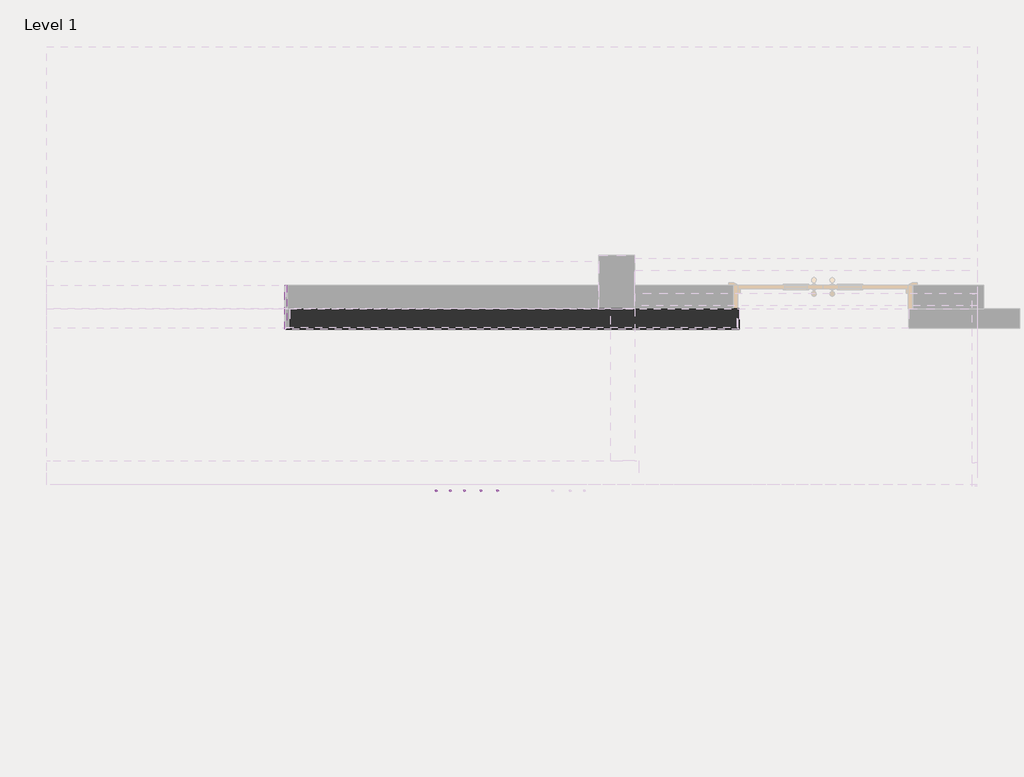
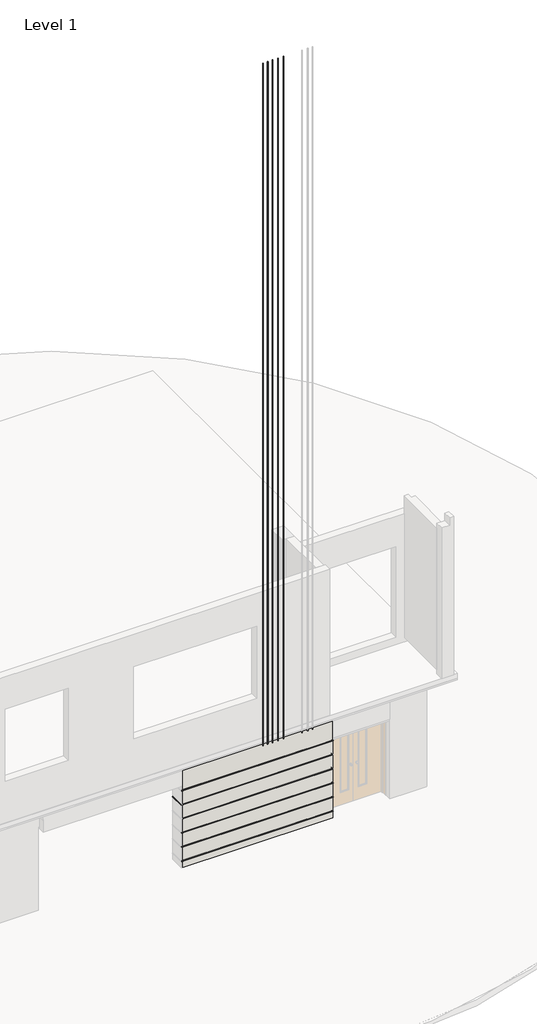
# One storey, part 2 of 3: 10 proxies, 1 wall.
"""IFC4 building model written with IfcOpenShell, lengths in millimetres."""

import ifcopenshell
import ifcopenshell.guid

model = None  # the IFC model being written
_history = None  # IfcOwnerHistory: only IFC2X3 demands one
_inside = {}  # id of a spatial element -> (the spatial element, [elements in it])
_under = {}  # id of a project, library or spatial element -> (it, [spatial elements below it])
_declared = {}  # id of a project -> (the project, [libraries it declares])
_typed = {}  # id of a type object -> (the type object, [elements of that type])
_made_of = {}  # id of a material, layer set ... -> (it, [elements and type objects made of it])


def new_model(schema):
    """Start an empty IFC model of exactly this schema.

    Asked for "IFC4X3", IfcOpenShell would pick the latest addendum, in which some entities
    have other attributes; the version numbers below select the first issue.
    IFC2X3 requires an IfcOwnerHistory on every rooted entity: one is made here for all.
    """
    global model, _history
    if schema == "IFC4X3":
        model = ifcopenshell.file(schema_version=(4, 3, 0, 0))
    else:
        model = ifcopenshell.file(schema=schema)
    _inside.clear()
    _under.clear()
    _declared.clear()
    _typed.clear()
    _made_of.clear()
    _history = None
    if model.schema == "IFC2X3":
        org = make("IfcOrganization", Name="unknown")
        user = make(
            "IfcPersonAndOrganization",
            ThePerson=make("IfcPerson", FamilyName="unknown"),
            TheOrganization=org,
        )
        app = make(
            "IfcApplication",
            ApplicationDeveloper=org,
            Version="unknown",
            ApplicationFullName="unknown",
            ApplicationIdentifier="unknown",
        )
        _history = make(
            "IfcOwnerHistory",
            OwningUser=user,
            OwningApplication=app,
            ChangeAction="ADDED",
            CreationDate=0,
        )
    return model


def make(cls, **values):
    """One entity of the class cls with the attributes given. An attribute that is None is left unset."""
    return model.create_entity(
        cls, **{name: value for name, value in values.items() if value is not None}
    )


def rooted(cls, **values):
    """An entity with a GlobalId (a new one), such as an element, a storey or a relation."""
    return make(cls, GlobalId=ifcopenshell.guid.new(), OwnerHistory=_history, **values)


def si_unit(unit_type, name, prefix=None):
    """IfcSIUnit, for example si_unit("LENGTHUNIT", "METRE", prefix="MILLI")."""
    return make("IfcSIUnit", UnitType=unit_type, Prefix=prefix, Name=name)


def assignment(units):
    """IfcUnitAssignment: the units of a project."""
    return None if units is None else make("IfcUnitAssignment", Units=units)


def point(xyz):
    """IfcCartesianPoint."""
    return None if xyz is None else make("IfcCartesianPoint", Coordinates=xyz)


def direction(xyz):
    """IfcDirection."""
    return None if xyz is None else make("IfcDirection", DirectionRatios=xyz)


def frame(location, z_axis=None, x_axis=None):
    """IfcAxis2Placement3D, a coordinate frame: its origin and axes. An axis left out is left unset."""
    return make(
        "IfcAxis2Placement3D",
        Location=point(location),
        Axis=direction(z_axis),
        RefDirection=direction(x_axis),
    )


def frame_2d(location, x_axis=None):
    """IfcAxis2Placement2D, a coordinate frame in the plane: its origin and x axis."""
    return make(
        "IfcAxis2Placement2D", Location=point(location), RefDirection=direction(x_axis)
    )


def origin():
    """The frame at (0, 0, 0) with its axes left unset."""
    return frame((0.0, 0.0, 0.0))


def place(relative_to, where):
    """IfcLocalPlacement: puts the frame where relative to a parent placement (None: the world)."""
    return make(
        "IfcLocalPlacement", PlacementRelTo=relative_to, RelativePlacement=where
    )


def context(
    kind, dimensions, precision=None, world=None, true_north=None, identifier=None
):
    """IfcGeometricRepresentationContext, for example the 3D "Model" context."""
    return make(
        "IfcGeometricRepresentationContext",
        ContextIdentifier=identifier,
        ContextType=kind,
        CoordinateSpaceDimension=dimensions,
        Precision=precision,
        WorldCoordinateSystem=world,
        TrueNorth=true_north,
    )


def project(units=None, contexts=None):
    """IfcProject with its units and contexts."""
    return rooted(
        "IfcProject",
        Name="project",
        RepresentationContexts=contexts,
        UnitsInContext=assignment(units),
    )


def spatial(cls, under=None, at=None, **own):
    """A site, building, storey or space (cls), placed at a placement, below another one or the project."""
    s = rooted(cls, ObjectPlacement=at, **own)
    if under is not None:
        _under.setdefault(under.id(), (under, []))[1].append(s)
    return s


def polyline(points):
    """IfcPolyline through the points."""
    return make("IfcPolyline", Points=[point(p) for p in points])


def circle_curve(where, radius):
    """IfcCircle in the frame where."""
    return make("IfcCircle", Position=where, Radius=radius)


def ellipse_curve(where, semi_axis1, semi_axis2):
    """IfcEllipse in the frame where."""
    return make(
        "IfcEllipse", Position=where, SemiAxis1=semi_axis1, SemiAxis2=semi_axis2
    )


def trimmed(basis, trim1, trim2, sense, master):
    """IfcTrimmedCurve: the piece of a basis curve between two trims."""
    return make(
        "IfcTrimmedCurve",
        BasisCurve=basis,
        Trim1=trim1,
        Trim2=trim2,
        SenseAgreement=sense,
        MasterRepresentation=master,
    )


def segment(curve, same_sense, transition):
    """IfcCompositeCurveSegment."""
    return make(
        "IfcCompositeCurveSegment",
        Transition=transition,
        SameSense=same_sense,
        ParentCurve=curve,
    )


def composite_curve(segments, self_intersect=None):
    """IfcCompositeCurve: segments joined end to end."""
    return make("IfcCompositeCurve", Segments=segments, SelfIntersect=self_intersect)


def outline(outer, holes=None, kind="AREA"):
    """IfcArbitraryClosedProfileDef: a profile drawn as a closed curve; with holes, ...WithVoids."""
    if holes is None:
        return make("IfcArbitraryClosedProfileDef", ProfileType=kind, OuterCurve=outer)
    return make(
        "IfcArbitraryProfileDefWithVoids",
        ProfileType=kind,
        OuterCurve=outer,
        InnerCurves=holes,
    )


def extrude(swept, where, along, depth):
    """IfcExtrudedAreaSolid: the profile swept, set in the frame where, extruded along a direction by depth."""
    return make(
        "IfcExtrudedAreaSolid",
        SweptArea=swept,
        Position=where,
        ExtrudedDirection=direction(along),
        Depth=depth,
    )


def shape(context_of_items, identifier, shape_type, items):
    """IfcShapeRepresentation: the items that make up one representation, for example the "Body"."""
    return make(
        "IfcShapeRepresentation",
        ContextOfItems=context_of_items,
        RepresentationIdentifier=identifier,
        RepresentationType=shape_type,
        Items=items,
    )


def made_of(thing, what):
    """Note that an element or type object is made of a material, layer set ...; save() writes the relation."""
    if what is not None:
        _made_of.setdefault(what.id(), (what, []))[1].append(thing)
    return thing


def element(
    cls,
    number,
    at=None,
    inside=None,
    cuts=None,
    type_object=None,
    material=None,
    context=None,
    identifier="Body",
    shape_type=None,
    held_by="IfcProductDefinitionShape",
    body=None,
    shapes=None,
    **own,
):
    """One element of the class cls, such as IfcWall. Its Tag is "e" and its number.

    at: its placement. inside: the storey or other place that contains it. cuts: it is an
    opening in that element (IfcRelVoidsElement). A single representation is given by context,
    identifier, shape_type and body (its items); several are given by shapes. held_by: the class
    of the entity that holds the representations. save() writes the other relations.
    """
    e = rooted(cls, Tag="e%d" % number, ObjectPlacement=at, **own)
    if body is not None:
        shapes = [shape(context, identifier, shape_type, body)]
    if shapes is not None:
        e.Representation = make(held_by, Representations=shapes)
    if inside is not None:
        _inside.setdefault(inside.id(), (inside, []))[1].append(e)
    if cuts is not None:
        rooted(
            "IfcRelVoidsElement", RelatingBuildingElement=cuts, RelatedOpeningElement=e
        )
    if type_object is not None:
        _typed.setdefault(type_object.id(), (type_object, []))[1].append(e)
    return made_of(e, material)


def aggregate(whole, parts):
    """IfcRelAggregates: a whole, such as a stair, and the parts it consists of."""
    return rooted("IfcRelAggregates", RelatingObject=whole, RelatedObjects=parts)


def save(model, path):
    """Write the relations noted so far, then the file.

    IfcRelAggregates (storeys below a building ...), IfcRelContainedInSpatialStructure (elements
    in a storey), IfcRelDefinesByType, IfcRelAssociatesMaterial and IfcRelDeclares: one each for
    every whole, place, type object, material and project.
    """
    for whole, parts in _under.values():
        aggregate(whole, parts)
    for where, things in _inside.values():
        rooted(
            "IfcRelContainedInSpatialStructure",
            RelatedElements=things,
            RelatingStructure=where,
        )
    for kind, things in _typed.values():
        rooted("IfcRelDefinesByType", RelatedObjects=things, RelatingType=kind)
    for what, things in _made_of.values():
        rooted("IfcRelAssociatesMaterial", RelatedObjects=things, RelatingMaterial=what)
    for by, libraries in _declared.values():
        rooted("IfcRelDeclares", RelatingContext=by, RelatedDefinitions=libraries)
    model.write(path)


def plane_surface(at):
    """IfcPlane: the flat surface through the origin of the frame at, square to its z axis."""
    return make("IfcPlane", Position=at)


def cylinder_surface(at, radius):
    """IfcCylindricalSurface: all points at the distance radius from the z axis of the frame at."""
    return make("IfcCylindricalSurface", Position=at, Radius=radius)


def revolved_surface(curve, axis_point, axis_direction):
    """IfcSurfaceOfRevolution: the curve turned about the line through axis_point along axis_direction."""
    return make(
        "IfcSurfaceOfRevolution",
        SweptCurve=make("IfcArbitraryOpenProfileDef", ProfileType="CURVE", Curve=curve),
        AxisPosition=make("IfcAxis1Placement", Location=point(axis_point), Axis=direction(axis_direction)),
    )


def advanced_brep(points, edges, surfaces, faces):
    """IfcAdvancedBrep: a solid bounded by faces that lie on surfaces and meet in shared edges.

    An edge is (start, end): straight between two places in points (the first is 0);
    or (start, end, curve); or (start, end, curve, False) where it runs against its curve.
    A face is (place in surfaces, loops), or (place, loops, False) where it looks against
    its surface's normal. A loop lists edges by number (the first is 1), with a minus sign
    where the edge is run from its end to its start. The first loop is the outer one.
    """
    corners = [point(p) for p in points]
    vertices = [make("IfcVertexPoint", VertexGeometry=c) for c in corners]
    made = []
    for start, end, *more in edges:
        made.append(
            make(
                "IfcEdgeCurve",
                EdgeStart=vertices[start],
                EdgeEnd=vertices[end],
                EdgeGeometry=more[0] if more else make("IfcPolyline", Points=[corners[start], corners[end]]),
                SameSense=more[1] if len(more) > 1 else True,
            )
        )
    hull = []
    for where, loops, *sense in faces:
        bounds = []
        for j, loop in enumerate(loops):
            ring = [make("IfcOrientedEdge", EdgeElement=made[abs(k) - 1], Orientation=k > 0) for k in loop]
            bounds.append(
                make(
                    "IfcFaceOuterBound" if j == 0 else "IfcFaceBound",
                    Bound=make("IfcEdgeLoop", EdgeList=ring),
                    Orientation=True,
                )
            )
        hull.append(make("IfcAdvancedFace", Bounds=bounds, FaceSurface=surfaces[where], SameSense=sense[0] if sense else True))
    return make("IfcAdvancedBrep", Outer=make("IfcClosedShell", CfsFaces=hull))


model = new_model("IFC4")

# Units and contexts
model_context = context("Model", 3, world=origin())
ifc_project = project(units=[si_unit("LENGTHUNIT", "METRE", prefix="MILLI")], contexts=[model_context])

# Site, building, storey
site = spatial("IfcSite", under=ifc_project)
building = spatial("IfcBuilding", under=site)
storey = spatial("IfcBuildingStorey", under=building, Name="Level 1", Elevation=0.0)

# Proxies
placement = place(None, origin())
element("IfcBuildingElementProxy", 1, Name="Reveal", ObjectType="Reveal", at=placement, inside=storey, context=model_context, shape_type="SweptSolid", body=[
    extrude(outline(composite_curve([segment(trimmed(circle_curve(frame_2d((3095.4960254, -5750.9799478)), 8.0), [point((3095.4960254, -5758.9799478))], [point((3095.4960254, -5742.9799478))], False, "CARTESIAN"), True, "CONTINUOUS"), segment(trimmed(circle_curve(frame_2d((3095.4960254, -5750.9799478)), 8.0), [point((3095.4960254, -5742.9799478))], [point((3095.4960254, -5758.9799478))], False, "CARTESIAN"), True, "CONTINUOUS")], self_intersect=False)), frame((0.0, 0.0, 3630.0), z_axis=(0.0, 0.0, 1.0), x_axis=(1.0, 0.0, 0.0)), (0.0, 0.0, 1.0), 18066.328216),
])
element("IfcBuildingElementProxy", 2, Name="Reveal", ObjectType="Reveal", at=placement, inside=storey, context=model_context, shape_type="SweptSolid", body=[
    extrude(outline(composite_curve([segment(trimmed(circle_curve(frame_2d((3214.067454, -5750.9799478)), 8.0), [point((3214.067454, -5758.9799478))], [point((3214.067454, -5742.9799478))], False, "CARTESIAN"), True, "CONTINUOUS"), segment(trimmed(circle_curve(frame_2d((3214.067454, -5750.9799478)), 8.0), [point((3214.067454, -5742.9799478))], [point((3214.067454, -5758.9799478))], False, "CARTESIAN"), True, "CONTINUOUS")], self_intersect=False)), frame((0.0, 0.0, 3630.0), z_axis=(0.0, 0.0, 1.0), x_axis=(1.0, 0.0, 0.0)), (0.0, 0.0, 1.0), 18066.328216),
])
element("IfcBuildingElementProxy", 3, Name="Reveal", ObjectType="Reveal", at=placement, inside=storey, context=model_context, shape_type="SweptSolid", body=[
    extrude(outline(composite_curve([segment(trimmed(circle_curve(frame_2d((3332.6388826, -5750.9799478)), 8.0), [point((3332.6388826, -5758.9799478))], [point((3332.6388826, -5742.9799478))], False, "CARTESIAN"), True, "CONTINUOUS"), segment(trimmed(circle_curve(frame_2d((3332.6388826, -5750.9799478)), 8.0), [point((3332.6388826, -5742.9799478))], [point((3332.6388826, -5758.9799478))], False, "CARTESIAN"), True, "CONTINUOUS")], self_intersect=False)), frame((0.0, 0.0, 3630.0), z_axis=(0.0, 0.0, 1.0), x_axis=(1.0, 0.0, 0.0)), (0.0, 0.0, 1.0), 18066.328216),
])
element("IfcBuildingElementProxy", 4, Name="Reveal", ObjectType="Reveal", at=placement, inside=storey, context=model_context, shape_type="SweptSolid", body=[
    extrude(outline(composite_curve([segment(trimmed(circle_curve(frame_2d((3471.2103111, -5750.9799478)), 8.0), [point((3471.2103111, -5758.9799478))], [point((3471.2103111, -5742.9799478))], False, "CARTESIAN"), True, "CONTINUOUS"), segment(trimmed(circle_curve(frame_2d((3471.2103111, -5750.9799478)), 8.0), [point((3471.2103111, -5742.9799478))], [point((3471.2103111, -5758.9799478))], False, "CARTESIAN"), True, "CONTINUOUS")], self_intersect=False)), frame((0.0, 0.0, 3630.0), z_axis=(0.0, 0.0, 1.0), x_axis=(1.0, 0.0, 0.0)), (0.0, 0.0, 1.0), 18066.328216),
])
element("IfcBuildingElementProxy", 5, Name="Reveal", ObjectType="Reveal", at=placement, inside=storey, context=model_context, shape_type="SweptSolid", body=[
    extrude(outline(composite_curve([segment(trimmed(circle_curve(frame_2d((3609.7817397, -5750.9799478)), 8.0), [point((3609.7817397, -5758.9799478))], [point((3609.7817397, -5742.9799478))], False, "CARTESIAN"), True, "CONTINUOUS"), segment(trimmed(circle_curve(frame_2d((3609.7817397, -5750.9799478)), 8.0), [point((3609.7817397, -5742.9799478))], [point((3609.7817397, -5758.9799478))], False, "CARTESIAN"), True, "CONTINUOUS")], self_intersect=False)), frame((0.0, 0.0, 3630.0), z_axis=(0.0, 0.0, 1.0), x_axis=(1.0, 0.0, 0.0)), (0.0, 0.0, 1.0), 18066.328216),
])
element("IfcBuildingElementProxy", 6, Name="Reveal", ObjectType="Reveal", at=placement, inside=storey, context=model_context, shape_type="AdvancedBrep", body=[
    advanced_brep(
    [(1826.4333411, -4395.9647185, 181.0626843), (1842.4333411, -4379.9647185, 181.0626843), (5618.5761983, -4379.9647185, 181.0626843), (5634.5761983, -4395.9647185, 181.0626843), (5634.5761983, -4225.9647185, 181.0626843), (5618.5761983, -4225.9647185, 181.0626843)],
    [
        (0, 1, ellipse_curve(frame((1834.4333411, -4387.9647185, 181.0626843), z_axis=(-0.7071067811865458, 0.7071067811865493, 0.0), x_axis=(0.7071067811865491, 0.7071067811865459, 0.0)), 11.3137085, 8.0)),
        (1, 0, ellipse_curve(frame((1834.4333411, -4387.9647185, 181.0626843), z_axis=(-0.7071067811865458, 0.7071067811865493, 0.0), x_axis=(0.7071067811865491, 0.7071067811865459, 0.0)), 11.3137085, 8.0)),
        (2, 3, ellipse_curve(frame((5626.5761983, -4387.9647185, 181.0626843), z_axis=(-0.7071067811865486, -0.7071067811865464, 0.0), x_axis=(0.7071067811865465, -0.7071067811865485, 0.0)), 11.3137085, 8.0)),
        (3, 0),
        (1, 2),
        (3, 2, ellipse_curve(frame((5626.5761983, -4387.9647185, 181.0626843), z_axis=(-0.7071067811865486, -0.7071067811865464, 0.0), x_axis=(0.7071067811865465, -0.7071067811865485, 0.0)), 11.3137085, 8.0)),
        (4, 5, circle_curve(frame((5626.5761983, -4225.9647185, 181.0626843), z_axis=(0.0, 1.0, 0.0), x_axis=(-1.0, 0.0, 0.0)), 8.0)),
        (5, 4, circle_curve(frame((5626.5761983, -4225.9647185, 181.0626843), z_axis=(0.0, 1.0, 0.0), x_axis=(-1.0, 0.0, 0.0)), 8.0)),
        (4, 3),
        (2, 5),
    ],
    [
        plane_surface(frame((1834.4333411, -4387.9647185, 484.8), z_axis=(-0.7071067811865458, 0.7071067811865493, 0.0), x_axis=(0.7071067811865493, 0.7071067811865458, 0.0))),
        cylinder_surface(frame((5626.5761983, -4387.9647185, 181.0626843), z_axis=(1.0, 0.0, 0.0), x_axis=(0.0, 1.0, 0.0)), 8.0),
        plane_surface(frame((5549.4333411, -4225.9647185, 0.0), z_axis=(0.0, 1.0, 0.0), x_axis=(1.0, 0.0, 0.0))),
        cylinder_surface(frame((5626.5761983, -4225.9647185, 181.0626843), z_axis=(0.0, 1.0, 0.0), x_axis=(-1.0, 0.0, 0.0)), 8.0),
    ],
    [
        (0, [[1, 2]]),
        (1, [[3, 4, -2, 5]]),
        (1, [[6, -5, -1, -4]]),
        (2, [[7, 8]]),
        (3, [[-7, 9, -3, 10]]),
        (3, [[-8, -10, -6, -9]]),
    ],
),
])
element("IfcBuildingElementProxy", 7, Name="Reveal", ObjectType="Reveal", at=placement, inside=storey, context=model_context, shape_type="AdvancedBrep", body=[
    advanced_brep(
    [(5634.5761983, -4225.9647185, 2048.5626843), (5618.5761983, -4225.9647185, 2048.5626843), (5634.5761983, -4395.9647185, 2048.5626843), (5618.5761983, -4379.9647185, 2048.5626843), (1826.4333411, -4395.9647185, 2048.5626843), (1842.4333411, -4379.9647185, 2048.5626843)],
    [
        (0, 1, circle_curve(frame((5626.5761983, -4225.9647185, 2048.5626843), z_axis=(0.0, 1.0, 0.0), x_axis=(-1.0, 0.0, 0.0)), 8.0)),
        (1, 0, circle_curve(frame((5626.5761983, -4225.9647185, 2048.5626843), z_axis=(0.0, 1.0, 0.0), x_axis=(-1.0, 0.0, 0.0)), 8.0)),
        (0, 2),
        (2, 3, ellipse_curve(frame((5626.5761983, -4387.9647185, 2048.5626843), z_axis=(0.7071067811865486, 0.7071067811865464, 0.0), x_axis=(-0.7071067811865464, 0.7071067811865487, 0.0)), 11.3137085, 8.0)),
        (3, 1),
        (3, 2, ellipse_curve(frame((5626.5761983, -4387.9647185, 2048.5626843), z_axis=(0.7071067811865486, 0.7071067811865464, 0.0), x_axis=(-0.7071067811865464, 0.7071067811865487, 0.0)), 11.3137085, 8.0)),
        (4, 5, ellipse_curve(frame((1834.4333411, -4387.9647185, 2048.5626843), z_axis=(-0.7071067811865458, 0.7071067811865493, 0.0), x_axis=(0.7071067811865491, 0.7071067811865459, 0.0)), 11.3137085, 8.0)),
        (5, 4, ellipse_curve(frame((1834.4333411, -4387.9647185, 2048.5626843), z_axis=(-0.7071067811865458, 0.7071067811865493, 0.0), x_axis=(0.7071067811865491, 0.7071067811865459, 0.0)), 11.3137085, 8.0)),
        (2, 4),
        (5, 3),
    ],
    [
        plane_surface(frame((5549.4333411, -4225.9647185, 0.0), z_axis=(0.0, 1.0, 0.0), x_axis=(1.0, 0.0, 0.0))),
        cylinder_surface(frame((5626.5761983, -4225.9647185, 2048.5626843), z_axis=(0.0, 1.0, 0.0), x_axis=(-1.0, 0.0, 0.0)), 8.0),
        plane_surface(frame((1834.4333411, -4387.9647185, 2352.3), z_axis=(-0.7071067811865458, 0.7071067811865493, 0.0), x_axis=(0.7071067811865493, 0.7071067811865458, 0.0))),
        cylinder_surface(frame((5626.5761983, -4387.9647185, 2048.5626843), z_axis=(1.0, 0.0, 0.0), x_axis=(0.0, 1.0, 0.0)), 8.0),
    ],
    [
        (0, [[1, 2]]),
        (1, [[-1, 3, 4, 5]]),
        (1, [[-2, -5, 6, -3]]),
        (2, [[7, 8]]),
        (3, [[-4, 9, -8, 10]]),
        (3, [[-6, -10, -7, -9]]),
    ],
),
])
element("IfcBuildingElementProxy", 8, Name="Reveal", ObjectType="Reveal", at=placement, inside=storey, context=model_context, shape_type="AdvancedBrep", body=[
    advanced_brep(
    [(5634.5761983, -4225.9647185, 554.5626843), (5618.5761983, -4225.9647185, 554.5626843), (5634.5761983, -4395.9647185, 554.5626843), (5618.5761983, -4379.9647185, 554.5626843), (1826.4333411, -4395.9647185, 554.5626843), (1842.4333411, -4379.9647185, 554.5626843)],
    [
        (0, 1, circle_curve(frame((5626.5761983, -4225.9647185, 554.5626843), z_axis=(0.0, 1.0, 0.0), x_axis=(-1.0, 0.0, 0.0)), 8.0)),
        (1, 0, circle_curve(frame((5626.5761983, -4225.9647185, 554.5626843), z_axis=(0.0, 1.0, 0.0), x_axis=(-1.0, 0.0, 0.0)), 8.0)),
        (0, 2),
        (2, 3, ellipse_curve(frame((5626.5761983, -4387.9647185, 554.5626843), z_axis=(0.7071067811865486, 0.7071067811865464, 0.0), x_axis=(-0.7071067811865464, 0.7071067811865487, 0.0)), 11.3137085, 8.0)),
        (3, 1),
        (3, 2, ellipse_curve(frame((5626.5761983, -4387.9647185, 554.5626843), z_axis=(0.7071067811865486, 0.7071067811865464, 0.0), x_axis=(-0.7071067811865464, 0.7071067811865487, 0.0)), 11.3137085, 8.0)),
        (4, 5, ellipse_curve(frame((1834.4333411, -4387.9647185, 554.5626843), z_axis=(-0.7071067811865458, 0.7071067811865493, 0.0), x_axis=(0.7071067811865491, 0.7071067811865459, 0.0)), 11.3137085, 8.0)),
        (5, 4, ellipse_curve(frame((1834.4333411, -4387.9647185, 554.5626843), z_axis=(-0.7071067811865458, 0.7071067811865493, 0.0), x_axis=(0.7071067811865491, 0.7071067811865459, 0.0)), 11.3137085, 8.0)),
        (2, 4),
        (5, 3),
    ],
    [
        plane_surface(frame((5549.4333411, -4225.9647185, 0.0), z_axis=(0.0, 1.0, 0.0), x_axis=(1.0, 0.0, 0.0))),
        cylinder_surface(frame((5626.5761983, -4225.9647185, 554.5626843), z_axis=(0.0, 1.0, 0.0), x_axis=(-1.0, 0.0, 0.0)), 8.0),
        plane_surface(frame((1834.4333411, -4387.9647185, 858.3), z_axis=(-0.7071067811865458, 0.7071067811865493, 0.0), x_axis=(0.7071067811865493, 0.7071067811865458, 0.0))),
        cylinder_surface(frame((5626.5761983, -4387.9647185, 554.5626843), z_axis=(1.0, 0.0, 0.0), x_axis=(0.0, 1.0, 0.0)), 8.0),
    ],
    [
        (0, [[1, 2]]),
        (1, [[-1, 3, 4, 5]]),
        (1, [[-2, -5, 6, -3]]),
        (2, [[7, 8]]),
        (3, [[-4, 9, -8, 10]]),
        (3, [[-6, -10, -7, -9]]),
    ],
),
])
element("IfcBuildingElementProxy", 9, Name="Reveal", ObjectType="Reveal", at=placement, inside=storey, context=model_context, shape_type="AdvancedBrep", body=[
    advanced_brep(
    [(5634.5761983, -4225.9647185, 928.0626843), (5618.5761983, -4225.9647185, 928.0626843), (5634.5761983, -4395.9647185, 928.0626843), (5618.5761983, -4379.9647185, 928.0626843), (1826.4333411, -4395.9647185, 928.0626843), (1842.4333411, -4379.9647185, 928.0626843)],
    [
        (0, 1, circle_curve(frame((5626.5761983, -4225.9647185, 928.0626843), z_axis=(0.0, 1.0, 0.0), x_axis=(-1.0, 0.0, 0.0)), 8.0)),
        (1, 0, circle_curve(frame((5626.5761983, -4225.9647185, 928.0626843), z_axis=(0.0, 1.0, 0.0), x_axis=(-1.0, 0.0, 0.0)), 8.0)),
        (0, 2),
        (2, 3, ellipse_curve(frame((5626.5761983, -4387.9647185, 928.0626843), z_axis=(0.7071067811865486, 0.7071067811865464, 0.0), x_axis=(-0.7071067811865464, 0.7071067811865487, 0.0)), 11.3137085, 8.0)),
        (3, 1),
        (3, 2, ellipse_curve(frame((5626.5761983, -4387.9647185, 928.0626843), z_axis=(0.7071067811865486, 0.7071067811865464, 0.0), x_axis=(-0.7071067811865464, 0.7071067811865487, 0.0)), 11.3137085, 8.0)),
        (4, 5, ellipse_curve(frame((1834.4333411, -4387.9647185, 928.0626843), z_axis=(-0.7071067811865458, 0.7071067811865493, 0.0), x_axis=(0.7071067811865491, 0.7071067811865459, 0.0)), 11.3137085, 8.0)),
        (5, 4, ellipse_curve(frame((1834.4333411, -4387.9647185, 928.0626843), z_axis=(-0.7071067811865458, 0.7071067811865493, 0.0), x_axis=(0.7071067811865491, 0.7071067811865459, 0.0)), 11.3137085, 8.0)),
        (2, 4),
        (5, 3),
    ],
    [
        plane_surface(frame((5549.4333411, -4225.9647185, 0.0), z_axis=(0.0, 1.0, 0.0), x_axis=(1.0, 0.0, 0.0))),
        cylinder_surface(frame((5626.5761983, -4225.9647185, 928.0626843), z_axis=(0.0, 1.0, 0.0), x_axis=(-1.0, 0.0, 0.0)), 8.0),
        plane_surface(frame((1834.4333411, -4387.9647185, 1231.8), z_axis=(-0.7071067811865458, 0.7071067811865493, 0.0), x_axis=(0.7071067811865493, 0.7071067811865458, 0.0))),
        cylinder_surface(frame((5626.5761983, -4387.9647185, 928.0626843), z_axis=(1.0, 0.0, 0.0), x_axis=(0.0, 1.0, 0.0)), 8.0),
    ],
    [
        (0, [[1, 2]]),
        (1, [[-1, 3, 4, 5]]),
        (1, [[-2, -5, 6, -3]]),
        (2, [[7, 8]]),
        (3, [[-4, 9, -8, 10]]),
        (3, [[-6, -10, -7, -9]]),
    ],
),
])
element("IfcBuildingElementProxy", 10, Name="Reveal", ObjectType="Reveal", at=placement, inside=storey, context=model_context, shape_type="AdvancedBrep", body=[
    advanced_brep(
    [(1826.4333411, -4025.9647185, 1675.0626843), (1842.4333411, -4025.9647185, 1675.0626843), (1826.4333411, -4395.9647185, 1675.0626843), (1842.4333411, -4379.9647185, 1675.0626843)],
    [
        (0, 1, circle_curve(frame((1834.4333411, -4025.9647185, 1675.0626843), z_axis=(0.0, 1.0, 0.0), x_axis=(1.0, 0.0, 0.0)), 8.0)),
        (1, 0, circle_curve(frame((1834.4333411, -4025.9647185, 1675.0626843), z_axis=(0.0, 1.0, 0.0), x_axis=(1.0, 0.0, 0.0)), 8.0)),
        (2, 3, ellipse_curve(frame((1834.4333411, -4387.9647185, 1675.0626843), z_axis=(0.7071067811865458, -0.7071067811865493, 0.0), x_axis=(0.7071067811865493, 0.7071067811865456, 0.0)), 11.3137085, 8.0)),
        (3, 2, ellipse_curve(frame((1834.4333411, -4387.9647185, 1675.0626843), z_axis=(0.7071067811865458, -0.7071067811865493, 0.0), x_axis=(0.7071067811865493, 0.7071067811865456, 0.0)), 11.3137085, 8.0)),
        (0, 2),
        (3, 1),
    ],
    [
        plane_surface(frame((1825.4972187, -4025.9647185, 1674.0), z_axis=(0.0, 1.0, 0.0), x_axis=(0.0, 0.0, -1.0))),
        plane_surface(frame((1834.4333411, -4387.9647185, 1369.2), z_axis=(0.7071067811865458, -0.7071067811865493, 0.0), x_axis=(0.7071067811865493, 0.7071067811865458, 0.0))),
        cylinder_surface(frame((1834.4333411, -4025.9647185, 1675.0626843), z_axis=(0.0, 1.0, 0.0), x_axis=(1.0, 0.0, 0.0)), 8.0),
    ],
    [
        (0, [[1, 2]]),
        (1, [[3, 4]]),
        (2, [[-1, 5, -4, 6]]),
        (2, [[-2, -6, -3, -5]]),
    ],
),
])

# Wall
element("IfcWall", 11, ObjectType="BZ1_fnsh_EIFS-16cm", at=placement, inside=storey, context=model_context, shape_type="AdvancedBrep", body=[
    advanced_brep(
    [(5626.5761983, -4225.9647185, 0.0), (1864.4333411, -4225.9647185, 0.0), (1864.4333411, -4225.9647185, 2160.0), (1864.4333411, -4225.9647185, 3630.0), (5626.5761983, -4225.9647185, 3630.0), (5626.5761983, -4225.9647185, 2110.0), (5626.5761983, -4225.9647185, 2070.0), (5626.5761983, -4225.9647185, 2056.5626843), (5618.5761983, -4225.9647185, 2048.5626843), (5626.5761983, -4225.9647185, 2040.5626843), (5626.5761983, -4225.9647185, 1683.0626843), (5618.5761983, -4225.9647185, 1675.0626843), (5626.5761983, -4225.9647185, 1667.0626843), (5626.5761983, -4225.9647185, 1309.5626843), (5618.5761983, -4225.9647185, 1301.5626843), (5626.5761983, -4225.9647185, 1293.5626843), (5626.5761983, -4225.9647185, 936.0626843), (5618.5761983, -4225.9647185, 928.0626843), (5626.5761983, -4225.9647185, 920.0626843), (5626.5761983, -4225.9647185, 562.5626843), (5618.5761983, -4225.9647185, 554.5626843), (5626.5761983, -4225.9647185, 546.5626843), (5626.5761983, -4225.9647185, 189.0626843), (5618.5761983, -4225.9647185, 181.0626843), (5626.5761983, -4225.9647185, 173.0626843), (1864.4333411, -4387.9647185, 0.0), (5626.5761983, -4387.9647185, 0.0), (5626.5761983, -4387.9647185, 173.0626843), (1864.4333411, -4387.9647185, 173.0626843), (5626.5761983, -4387.9647185, 3630.0), (1864.4333411, -4387.9647185, 3630.0), (1864.4333411, -4387.9647185, 2160.0), (1864.4333411, -4387.9647185, 2056.5626843), (5626.5761983, -4387.9647185, 2056.5626843), (5626.5761983, -4387.9647185, 2070.0), (5626.5761983, -4387.9647185, 2110.0), (1864.4333411, -4387.9647185, 189.0626843), (5626.5761983, -4387.9647185, 189.0626843), (5626.5761983, -4387.9647185, 546.5626843), (1864.4333411, -4387.9647185, 546.5626843), (5626.5761983, -4387.9647185, 2040.5626843), (1864.4333411, -4387.9647185, 2040.5626843), (1864.4333411, -4387.9647185, 1683.0626843), (5626.5761983, -4387.9647185, 1683.0626843), (5626.5761983, -4387.9647185, 1667.0626843), (1864.4333411, -4387.9647185, 1667.0626843), (1864.4333411, -4387.9647185, 1309.5626843), (5626.5761983, -4387.9647185, 1309.5626843), (5626.5761983, -4387.9647185, 1293.5626843), (1864.4333411, -4387.9647185, 1293.5626843), (1864.4333411, -4387.9647185, 936.0626843), (5626.5761983, -4387.9647185, 936.0626843), (5626.5761983, -4387.9647185, 920.0626843), (1864.4333411, -4387.9647185, 920.0626843), (1864.4333411, -4387.9647185, 562.5626843), (5626.5761983, -4387.9647185, 562.5626843), (1864.4333411, -4379.9647185, 181.0626843), (1864.4333411, -4379.9647185, 554.5626843), (1864.4333411, -4379.9647185, 928.0626843), (1864.4333411, -4379.9647185, 1301.5626843), (1864.4333411, -4379.9647185, 1675.0626843), (1864.4333411, -4379.9647185, 2048.5626843), (5618.5761983, -4379.9647185, 181.0626843), (5618.5761983, -4379.9647185, 2048.5626843), (5618.5761983, -4379.9647185, 1675.0626843), (5618.5761983, -4379.9647185, 1301.5626843), (5618.5761983, -4379.9647185, 928.0626843), (5618.5761983, -4379.9647185, 554.5626843)],
    [
        (0, 1),
        (1, 2),
        (2, 3),
        (3, 4),
        (4, 5),
        (5, 6),
        (6, 7),
        (7, 8, circle_curve(frame((5626.5761983, -4225.9647185, 2048.5626843), z_axis=(0.0, -1.0, 0.0), x_axis=(-1.0, 0.0, 0.0)), 8.0)),
        (8, 9, circle_curve(frame((5626.5761983, -4225.9647185, 2048.5626843), z_axis=(0.0, -1.0, 0.0), x_axis=(-1.0, 0.0, 0.0)), 8.0)),
        (9, 10),
        (10, 11, circle_curve(frame((5626.5761983, -4225.9647185, 1675.0626843), z_axis=(0.0, -1.0, 0.0), x_axis=(-1.0, 0.0, 0.0)), 8.0)),
        (11, 12, circle_curve(frame((5626.5761983, -4225.9647185, 1675.0626843), z_axis=(0.0, -1.0, 0.0), x_axis=(-1.0, 0.0, 0.0)), 8.0)),
        (12, 13),
        (13, 14, circle_curve(frame((5626.5761983, -4225.9647185, 1301.5626843), z_axis=(0.0, -1.0, 0.0), x_axis=(-1.0, 0.0, 0.0)), 8.0)),
        (14, 15, circle_curve(frame((5626.5761983, -4225.9647185, 1301.5626843), z_axis=(0.0, -1.0, 0.0), x_axis=(-1.0, 0.0, 0.0)), 8.0)),
        (15, 16),
        (16, 17, circle_curve(frame((5626.5761983, -4225.9647185, 928.0626843), z_axis=(0.0, -1.0, 0.0), x_axis=(-1.0, 0.0, 0.0)), 8.0)),
        (17, 18, circle_curve(frame((5626.5761983, -4225.9647185, 928.0626843), z_axis=(0.0, -1.0, 0.0), x_axis=(-1.0, 0.0, 0.0)), 8.0)),
        (18, 19),
        (19, 20, circle_curve(frame((5626.5761983, -4225.9647185, 554.5626843), z_axis=(0.0, -1.0, 0.0), x_axis=(-1.0, 0.0, 0.0)), 8.0)),
        (20, 21, circle_curve(frame((5626.5761983, -4225.9647185, 554.5626843), z_axis=(0.0, -1.0, 0.0), x_axis=(-1.0, 0.0, 0.0)), 8.0)),
        (21, 22),
        (22, 23, circle_curve(frame((5626.5761983, -4225.9647185, 181.0626843), z_axis=(0.0, -1.0, 0.0), x_axis=(-1.0, 0.0, 0.0)), 8.0)),
        (23, 24, circle_curve(frame((5626.5761983, -4225.9647185, 181.0626843), z_axis=(0.0, -1.0, 0.0), x_axis=(-1.0, 0.0, 0.0)), 8.0)),
        (24, 0),
        (25, 26),
        (26, 27),
        (27, 28),
        (28, 25),
        (29, 30),
        (30, 31),
        (31, 32),
        (32, 33),
        (33, 34),
        (34, 35),
        (35, 29),
        (36, 37),
        (37, 38),
        (38, 39),
        (39, 36),
        (40, 41),
        (41, 42),
        (42, 43),
        (43, 40),
        (44, 45),
        (45, 46),
        (46, 47),
        (47, 44),
        (48, 49),
        (49, 50),
        (50, 51),
        (51, 48),
        (52, 53),
        (53, 54),
        (54, 55),
        (55, 52),
        (1, 25),
        (28, 56, circle_curve(frame((1864.4333411, -4387.9647185, 181.0626843), z_axis=(1.0, 0.0, 0.0), x_axis=(0.0, 1.0, 0.0)), 8.0)),
        (56, 36, circle_curve(frame((1864.4333411, -4387.9647185, 181.0626843), z_axis=(1.0, 0.0, 0.0), x_axis=(0.0, 1.0, 0.0)), 8.0)),
        (39, 57, circle_curve(frame((1864.4333411, -4387.9647185, 554.5626843), z_axis=(1.0, 0.0, 0.0), x_axis=(0.0, 1.0, 0.0)), 8.0)),
        (57, 54, circle_curve(frame((1864.4333411, -4387.9647185, 554.5626843), z_axis=(1.0, 0.0, 0.0), x_axis=(0.0, 1.0, 0.0)), 8.0)),
        (53, 58, circle_curve(frame((1864.4333411, -4387.9647185, 928.0626843), z_axis=(1.0, 0.0, 0.0), x_axis=(0.0, 1.0, 0.0)), 8.0)),
        (58, 50, circle_curve(frame((1864.4333411, -4387.9647185, 928.0626843), z_axis=(1.0, 0.0, 0.0), x_axis=(0.0, 1.0, 0.0)), 8.0)),
        (49, 59, circle_curve(frame((1864.4333411, -4387.9647185, 1301.5626843), z_axis=(1.0, 0.0, 0.0), x_axis=(0.0, 1.0, 0.0)), 8.0)),
        (59, 46, circle_curve(frame((1864.4333411, -4387.9647185, 1301.5626843), z_axis=(1.0, 0.0, 0.0), x_axis=(0.0, 1.0, 0.0)), 8.0)),
        (45, 60, circle_curve(frame((1864.4333411, -4387.9647185, 1675.0626843), z_axis=(1.0, 0.0, 0.0), x_axis=(0.0, 1.0, 0.0)), 8.0)),
        (60, 42, circle_curve(frame((1864.4333411, -4387.9647185, 1675.0626843), z_axis=(1.0, 0.0, 0.0), x_axis=(0.0, 1.0, 0.0)), 8.0)),
        (41, 61, circle_curve(frame((1864.4333411, -4387.9647185, 2048.5626843), z_axis=(1.0, 0.0, 0.0), x_axis=(0.0, 1.0, 0.0)), 8.0)),
        (61, 32, circle_curve(frame((1864.4333411, -4387.9647185, 2048.5626843), z_axis=(1.0, 0.0, 0.0), x_axis=(0.0, 1.0, 0.0)), 8.0)),
        (30, 3),
        (29, 4),
        (27, 62, ellipse_curve(frame((5626.5761983, -4387.9647185, 181.0626843), z_axis=(0.7071067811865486, 0.7071067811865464, 0.0), x_axis=(0.7071067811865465, -0.7071067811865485, 0.0)), 11.3137085, 8.0)),
        (62, 56),
        (62, 37, ellipse_curve(frame((5626.5761983, -4387.9647185, 181.0626843), z_axis=(0.7071067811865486, 0.7071067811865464, 0.0), x_axis=(0.7071067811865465, -0.7071067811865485, 0.0)), 11.3137085, 8.0)),
        (27, 24),
        (23, 62),
        (22, 37),
        (8, 63),
        (63, 40, ellipse_curve(frame((5626.5761983, -4387.9647185, 2048.5626843), z_axis=(-0.7071067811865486, -0.7071067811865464, 0.0), x_axis=(-0.7071067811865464, 0.7071067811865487, 0.0)), 11.3137085, 8.0)),
        (40, 9),
        (7, 33),
        (33, 63, ellipse_curve(frame((5626.5761983, -4387.9647185, 2048.5626843), z_axis=(-0.7071067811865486, -0.7071067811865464, 0.0), x_axis=(-0.7071067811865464, 0.7071067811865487, 0.0)), 11.3137085, 8.0)),
        (63, 61),
        (11, 64),
        (64, 44, ellipse_curve(frame((5626.5761983, -4387.9647185, 1675.0626843), z_axis=(-0.7071067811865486, -0.7071067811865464, 0.0), x_axis=(-0.7071067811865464, 0.7071067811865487, 0.0)), 11.3137085, 8.0)),
        (44, 12),
        (10, 43),
        (43, 64, ellipse_curve(frame((5626.5761983, -4387.9647185, 1675.0626843), z_axis=(-0.7071067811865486, -0.7071067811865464, 0.0), x_axis=(-0.7071067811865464, 0.7071067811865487, 0.0)), 11.3137085, 8.0)),
        (64, 60),
        (14, 65),
        (65, 48, ellipse_curve(frame((5626.5761983, -4387.9647185, 1301.5626843), z_axis=(-0.7071067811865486, -0.7071067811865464, 0.0), x_axis=(-0.7071067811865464, 0.7071067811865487, 0.0)), 11.3137085, 8.0)),
        (48, 15),
        (13, 47),
        (47, 65, ellipse_curve(frame((5626.5761983, -4387.9647185, 1301.5626843), z_axis=(-0.7071067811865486, -0.7071067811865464, 0.0), x_axis=(-0.7071067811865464, 0.7071067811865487, 0.0)), 11.3137085, 8.0)),
        (65, 59),
        (17, 66),
        (66, 52, ellipse_curve(frame((5626.5761983, -4387.9647185, 928.0626843), z_axis=(-0.7071067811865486, -0.7071067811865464, 0.0), x_axis=(-0.7071067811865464, 0.7071067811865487, 0.0)), 11.3137085, 8.0)),
        (52, 18),
        (16, 51),
        (51, 66, ellipse_curve(frame((5626.5761983, -4387.9647185, 928.0626843), z_axis=(-0.7071067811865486, -0.7071067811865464, 0.0), x_axis=(-0.7071067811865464, 0.7071067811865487, 0.0)), 11.3137085, 8.0)),
        (66, 58),
        (20, 67),
        (67, 38, ellipse_curve(frame((5626.5761983, -4387.9647185, 554.5626843), z_axis=(-0.7071067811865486, -0.7071067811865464, 0.0), x_axis=(-0.7071067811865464, 0.7071067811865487, 0.0)), 11.3137085, 8.0)),
        (38, 21),
        (19, 55),
        (55, 67, ellipse_curve(frame((5626.5761983, -4387.9647185, 554.5626843), z_axis=(-0.7071067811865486, -0.7071067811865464, 0.0), x_axis=(-0.7071067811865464, 0.7071067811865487, 0.0)), 11.3137085, 8.0)),
        (67, 57),
        (0, 26),
    ],
    [
        plane_surface(frame((5549.4333411, -4225.9647185, 0.0), z_axis=(0.0, 1.0, 0.0), x_axis=(-1.0, 0.0, 0.0))),
        plane_surface(frame((5549.4333411, -4387.9647185, 0.0), z_axis=(0.0, -1.0, 0.0), x_axis=(1.0, 0.0, 0.0))),
        plane_surface(frame((1864.4333411, -4027.6897651, 0.0), z_axis=(-1.0, 0.0, 0.0), x_axis=(0.0, 1.0, 0.0))),
        plane_surface(frame((2969.4333411, -4225.9647185, 3630.0), z_axis=(0.0, 0.0, 1.0), x_axis=(1.0, 0.0, 0.0))),
        revolved_surface(polyline([(5634.576198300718, -4379.9647185, 181.0626843), (1864.4333410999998, -4379.9647185, 181.0626843)]), (5626.5761983, -4387.9647185, 181.0626843), (1.0, 0.0, 0.0)),
        revolved_surface(polyline([(5618.5761983, -4225.9647185, 181.0626843), (5618.5761983, -4395.964718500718, 181.0626843)]), (5626.5761983, -4225.9647185, 181.0626843), (0.0, 1.0, 0.0)),
        revolved_surface(polyline([(5618.5761983, -4225.9647185, 2048.5626843), (5618.5761983, -4395.964718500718, 2048.5626843)]), (5626.5761983, -4225.9647185, 2048.5626843), (0.0, 1.0, 0.0)),
        revolved_surface(polyline([(5634.576198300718, -4379.9647185, 2048.5626843), (1864.4333410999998, -4379.9647185, 2048.5626843)]), (5626.5761983, -4387.9647185, 2048.5626843), (1.0, 0.0, 0.0)),
        revolved_surface(polyline([(5618.5761983, -4225.9647185, 1675.0626843), (5618.5761983, -4395.964718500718, 1675.0626843)]), (5626.5761983, -4225.9647185, 1675.0626843), (0.0, 1.0, 0.0)),
        revolved_surface(polyline([(5634.576198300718, -4379.9647185, 1675.0626843), (1864.4333410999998, -4379.9647185, 1675.0626843)]), (5626.5761983, -4387.9647185, 1675.0626843), (1.0, 0.0, 0.0)),
        revolved_surface(polyline([(5618.5761983, -4225.9647185, 1301.5626843), (5618.5761983, -4395.964718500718, 1301.5626843)]), (5626.5761983, -4225.9647185, 1301.5626843), (0.0, 1.0, 0.0)),
        revolved_surface(polyline([(5634.576198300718, -4379.9647185, 1301.5626843), (1864.4333410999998, -4379.9647185, 1301.5626843)]), (5626.5761983, -4387.9647185, 1301.5626843), (1.0, 0.0, 0.0)),
        revolved_surface(polyline([(5618.5761983, -4225.9647185, 928.0626843), (5618.5761983, -4395.964718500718, 928.0626843)]), (5626.5761983, -4225.9647185, 928.0626843), (0.0, 1.0, 0.0)),
        revolved_surface(polyline([(5634.576198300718, -4379.9647185, 928.0626843), (1864.4333410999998, -4379.9647185, 928.0626843)]), (5626.5761983, -4387.9647185, 928.0626843), (1.0, 0.0, 0.0)),
        revolved_surface(polyline([(5618.5761983, -4225.9647185, 554.5626843), (5618.5761983, -4395.964718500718, 554.5626843)]), (5626.5761983, -4225.9647185, 554.5626843), (0.0, 1.0, 0.0)),
        revolved_surface(polyline([(5634.576198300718, -4379.9647185, 554.5626843), (1864.4333410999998, -4379.9647185, 554.5626843)]), (5626.5761983, -4387.9647185, 554.5626843), (1.0, 0.0, 0.0)),
        plane_surface(frame((5626.5761983, -4225.9647185, 0.0), z_axis=(0.0, 0.0, -1.0), x_axis=(0.0, -1.0, 0.0))),
        plane_surface(frame((5626.5761983, -4225.9647185, 3670.0), z_axis=(1.0, 0.0, 0.0), x_axis=(0.0, -1.0, 0.0))),
    ],
    [
        (0, [[1, 2, 3, 4, 5, 6, 7, 8, 9, 10, 11, 12, 13, 14, 15, 16, 17, 18, 19, 20, 21, 22, 23, 24, 25]]),
        (1, [[26, 27, 28, 29]]),
        (1, [[30, 31, 32, 33, 34, 35, 36]]),
        (1, [[37, 38, 39, 40]]),
        (1, [[41, 42, 43, 44]]),
        (1, [[45, 46, 47, 48]]),
        (1, [[49, 50, 51, 52]]),
        (1, [[53, 54, 55, 56]]),
        (2, [[-3, -2, 57, -29, 58, 59, -40, 60, 61, -54, 62, 63, -50, 64, 65, -46, 66, 67, -42, 68, 69, -32, -31, 70]]),
        (3, [[-4, -70, -30, 71]]),
        (4, [[72, 73, -58, -28]]),
        (4, [[74, -37, -59, -73]]),
        (5, [[-72, 75, -24, 76]]),
        (5, [[-74, -76, -23, 77]]),
        (6, [[78, 79, 80, -9]]),
        (6, [[-78, -8, 81, 82]]),
        (7, [[-79, 83, -68, -41]]),
        (7, [[-82, -33, -69, -83]]),
        (8, [[84, 85, 86, -12]]),
        (8, [[-84, -11, 87, 88]]),
        (9, [[-85, 89, -66, -45]]),
        (9, [[-88, -43, -67, -89]]),
        (10, [[90, 91, 92, -15]]),
        (10, [[-90, -14, 93, 94]]),
        (11, [[-91, 95, -64, -49]]),
        (11, [[-94, -47, -65, -95]]),
        (12, [[96, 97, 98, -18]]),
        (12, [[-96, -17, 99, 100]]),
        (13, [[-97, 101, -62, -53]]),
        (13, [[-100, -51, -63, -101]]),
        (14, [[102, 103, 104, -21]]),
        (14, [[-102, -20, 105, 106]]),
        (15, [[-103, 107, -60, -39]]),
        (15, [[-106, -55, -61, -107]]),
        (16, [[-1, 108, -26, -57]]),
        (17, [[-27, -108, -25, -75]]),
        (17, [[-10, -80, -44, -87]]),
        (17, [[-13, -86, -48, -93]]),
        (17, [[-16, -92, -52, -99]]),
        (17, [[-7, -6, -5, -71, -36, -35, -34, -81]]),
        (17, [[-77, -22, -104, -38]]),
        (17, [[-98, -56, -105, -19]]),
    ],
),
])

save(model, "model.ifc")
